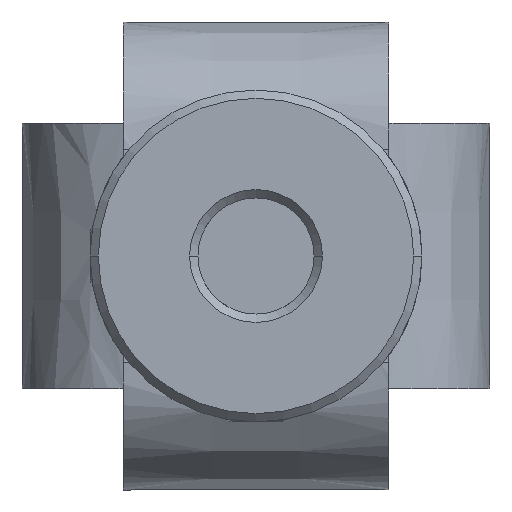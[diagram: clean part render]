
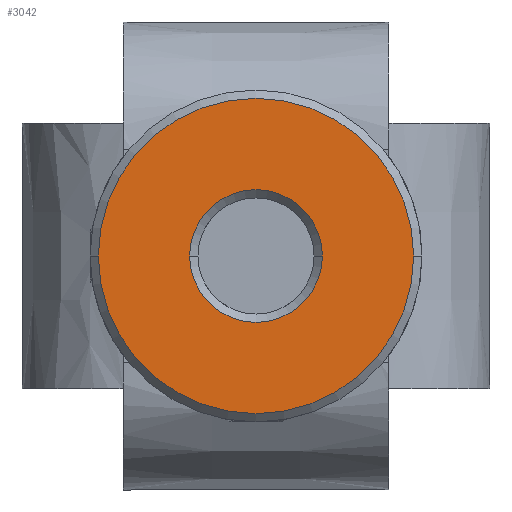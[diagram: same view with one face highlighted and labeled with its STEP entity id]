
A CAD part, front view. The second image highlights one B-rep face of the part: STEP entity #3042.
In plain terms, the highlighted planar face has unit normal (0, -1, 0).
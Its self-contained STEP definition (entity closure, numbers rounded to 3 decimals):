
#393 = CARTESIAN_POINT ( 'NONE',  ( 9.5, -35.24, 0. ) ) ;
#472 = AXIS2_PLACEMENT_3D ( 'NONE', #7512, #4364, #8165 ) ;
#656 = CARTESIAN_POINT ( 'NONE',  ( 0., -35.24, 0. ) ) ;
#731 = ORIENTED_EDGE ( 'NONE', *, *, #8202, .T. ) ;
#1035 = CIRCLE ( 'NONE', #3034, 9.5 ) ;
#1470 = PLANE ( 'NONE',  #4690 ) ;
#1611 = CIRCLE ( 'NONE', #6729, 9.5 ) ;
#1908 = DIRECTION ( 'NONE',  ( -1., 0., 0. ) ) ;
#2062 = FACE_BOUND ( 'NONE', #4848, .T. ) ;
#2149 = DIRECTION ( 'NONE',  ( 0., -1., 0. ) ) ;
#2792 = ORIENTED_EDGE ( 'NONE', *, *, #3698, .T. ) ;
#3034 = AXIS2_PLACEMENT_3D ( 'NONE', #656, #7706, #1908 ) ;
#3042 = ADVANCED_FACE ( 'NONE', ( #2062, #3592 ), #1470, .T. ) ;
#3074 = VERTEX_POINT ( 'NONE', #3406 ) ;
#3248 = CARTESIAN_POINT ( 'NONE',  ( -9.5, -35.24, 0. ) ) ;
#3330 = ORIENTED_EDGE ( 'NONE', *, *, #5561, .T. ) ;
#3406 = CARTESIAN_POINT ( 'NONE',  ( 4., -35.24, 0. ) ) ;
#3454 = DIRECTION ( 'NONE',  ( -1., 0., 0. ) ) ;
#3592 = FACE_OUTER_BOUND ( 'NONE', #7352, .T. ) ;
#3677 = VERTEX_POINT ( 'NONE', #3720 ) ;
#3698 = EDGE_CURVE ( 'NONE', #3074, #3677, #6311, .T. ) ;
#3720 = CARTESIAN_POINT ( 'NONE',  ( -4., -35.24, 0. ) ) ;
#4063 = ORIENTED_EDGE ( 'NONE', *, *, #7872, .T. ) ;
#4364 = DIRECTION ( 'NONE',  ( 0., 1., 0. ) ) ;
#4690 = AXIS2_PLACEMENT_3D ( 'NONE', #7264, #2149, #4711 ) ;
#4711 = DIRECTION ( 'NONE',  ( -1., 0., 0. ) ) ;
#4732 = DIRECTION ( 'NONE',  ( 0., 1., 0. ) ) ;
#4779 = VERTEX_POINT ( 'NONE', #393 ) ;
#4848 = EDGE_LOOP ( 'NONE', ( #731, #2792 ) ) ;
#5008 = CIRCLE ( 'NONE', #5383, 4. ) ;
#5383 = AXIS2_PLACEMENT_3D ( 'NONE', #6699, #4732, #3454 ) ;
#5561 = EDGE_CURVE ( 'NONE', #4779, #5787, #1611, .T. ) ;
#5787 = VERTEX_POINT ( 'NONE', #3248 ) ;
#6311 = CIRCLE ( 'NONE', #472, 4. ) ;
#6699 = CARTESIAN_POINT ( 'NONE',  ( 0., -35.24, 0. ) ) ;
#6729 = AXIS2_PLACEMENT_3D ( 'NONE', #7008, #7552, #8223 ) ;
#7008 = CARTESIAN_POINT ( 'NONE',  ( 0., -35.24, 0. ) ) ;
#7264 = CARTESIAN_POINT ( 'NONE',  ( 0., -35.24, 0. ) ) ;
#7352 = EDGE_LOOP ( 'NONE', ( #3330, #4063 ) ) ;
#7512 = CARTESIAN_POINT ( 'NONE',  ( 0., -35.24, 0. ) ) ;
#7552 = DIRECTION ( 'NONE',  ( 0., -1., 0. ) ) ;
#7706 = DIRECTION ( 'NONE',  ( 0., -1., 0. ) ) ;
#7872 = EDGE_CURVE ( 'NONE', #5787, #4779, #1035, .T. ) ;
#8165 = DIRECTION ( 'NONE',  ( -1., 0., 0. ) ) ;
#8202 = EDGE_CURVE ( 'NONE', #3677, #3074, #5008, .T. ) ;
#8223 = DIRECTION ( 'NONE',  ( -1., 0., 0. ) ) ;
